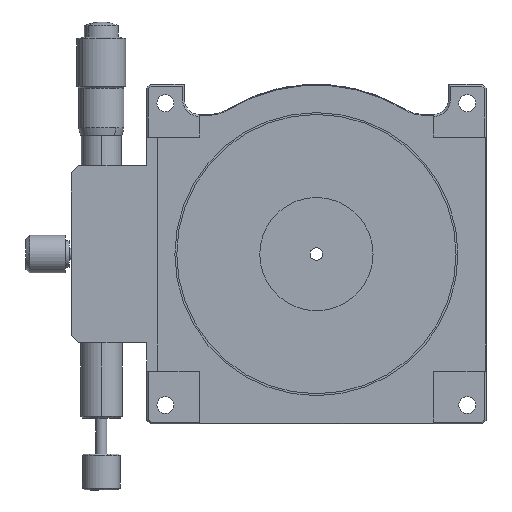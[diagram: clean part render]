
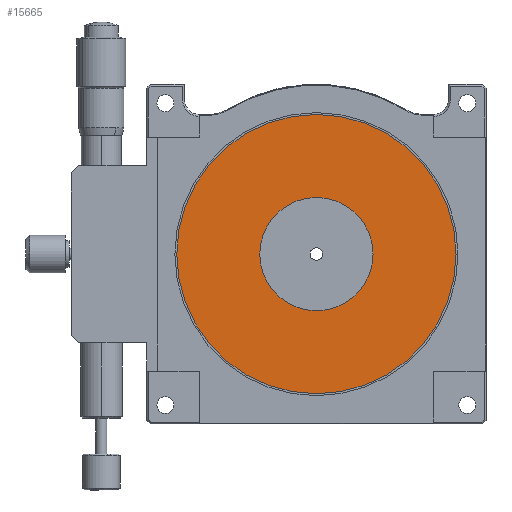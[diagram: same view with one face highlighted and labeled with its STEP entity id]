
A CAD part, front view. The second image highlights one B-rep face of the part: STEP entity #15665.
In plain terms, the highlighted planar face has unit normal (0, -1, 0).
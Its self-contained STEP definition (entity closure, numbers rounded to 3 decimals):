
#3 = DIRECTION ( 'NONE',  ( 0., -1., 0. ) ) ;
#610 = VERTEX_POINT ( 'NONE', #21175 ) ;
#867 = VERTEX_POINT ( 'NONE', #24657 ) ;
#1991 = EDGE_CURVE ( 'NONE', #610, #7393, #22488, .T. ) ;
#2167 = EDGE_LOOP ( 'NONE', ( #13014, #26408 ) ) ;
#4003 = CIRCLE ( 'NONE', #14493, 37. ) ;
#5118 = CARTESIAN_POINT ( 'NONE',  ( 2.998, -13.285, 9.853 ) ) ;
#5666 = AXIS2_PLACEMENT_3D ( 'NONE', #7381, #7566, #19638 ) ;
#5784 = DIRECTION ( 'NONE',  ( 0., 0., -1. ) ) ;
#5916 = EDGE_CURVE ( 'NONE', #867, #23415, #12050, .T. ) ;
#7381 = CARTESIAN_POINT ( 'NONE',  ( 2.998, -13.285, 9.853 ) ) ;
#7393 = VERTEX_POINT ( 'NONE', #9011 ) ;
#7566 = DIRECTION ( 'NONE',  ( 0., 1., 0. ) ) ;
#8156 = EDGE_CURVE ( 'NONE', #7393, #610, #4003, .T. ) ;
#9011 = CARTESIAN_POINT ( 'NONE',  ( 2.998, -13.285, -27.147 ) ) ;
#9642 = CIRCLE ( 'NONE', #5666, 15. ) ;
#10876 = DIRECTION ( 'NONE',  ( 0., -1., 0. ) ) ;
#12050 = CIRCLE ( 'NONE', #24098, 15. ) ;
#12264 = FACE_BOUND ( 'NONE', #2167, .T. ) ;
#12281 = DIRECTION ( 'NONE',  ( 0., 0., 1. ) ) ;
#13014 = ORIENTED_EDGE ( 'NONE', *, *, #5916, .T. ) ;
#14493 = AXIS2_PLACEMENT_3D ( 'NONE', #24517, #3, #12281 ) ;
#14734 = CARTESIAN_POINT ( 'NONE',  ( 2.998, -13.285, -5.147 ) ) ;
#15665 = ADVANCED_FACE ( 'NONE', ( #23201, #12264 ), #20094, .T. ) ;
#16857 = CARTESIAN_POINT ( 'NONE',  ( 2.998, -13.285, 9.853 ) ) ;
#17518 = DIRECTION ( 'NONE',  ( 0., -1., 0. ) ) ;
#17856 = EDGE_CURVE ( 'NONE', #23415, #867, #9642, .T. ) ;
#18098 = DIRECTION ( 'NONE',  ( 0., 1., 0. ) ) ;
#18825 = ORIENTED_EDGE ( 'NONE', *, *, #8156, .T. ) ;
#19638 = DIRECTION ( 'NONE',  ( 0., 0., 1. ) ) ;
#20094 = PLANE ( 'NONE',  #21816 ) ;
#21175 = CARTESIAN_POINT ( 'NONE',  ( 2.998, -13.285, 46.853 ) ) ;
#21320 = AXIS2_PLACEMENT_3D ( 'NONE', #5118, #17518, #23958 ) ;
#21429 = ORIENTED_EDGE ( 'NONE', *, *, #1991, .T. ) ;
#21816 = AXIS2_PLACEMENT_3D ( 'NONE', #16857, #10876, #5784 ) ;
#22219 = CARTESIAN_POINT ( 'NONE',  ( 2.998, -13.285, 9.853 ) ) ;
#22486 = DIRECTION ( 'NONE',  ( 0., 0., 1. ) ) ;
#22488 = CIRCLE ( 'NONE', #21320, 37. ) ;
#23201 = FACE_OUTER_BOUND ( 'NONE', #26302, .T. ) ;
#23415 = VERTEX_POINT ( 'NONE', #14734 ) ;
#23958 = DIRECTION ( 'NONE',  ( 0., 0., 1. ) ) ;
#24098 = AXIS2_PLACEMENT_3D ( 'NONE', #22219, #18098, #22486 ) ;
#24517 = CARTESIAN_POINT ( 'NONE',  ( 2.998, -13.285, 9.853 ) ) ;
#24657 = CARTESIAN_POINT ( 'NONE',  ( 2.998, -13.285, 24.853 ) ) ;
#26302 = EDGE_LOOP ( 'NONE', ( #21429, #18825 ) ) ;
#26408 = ORIENTED_EDGE ( 'NONE', *, *, #17856, .T. ) ;
